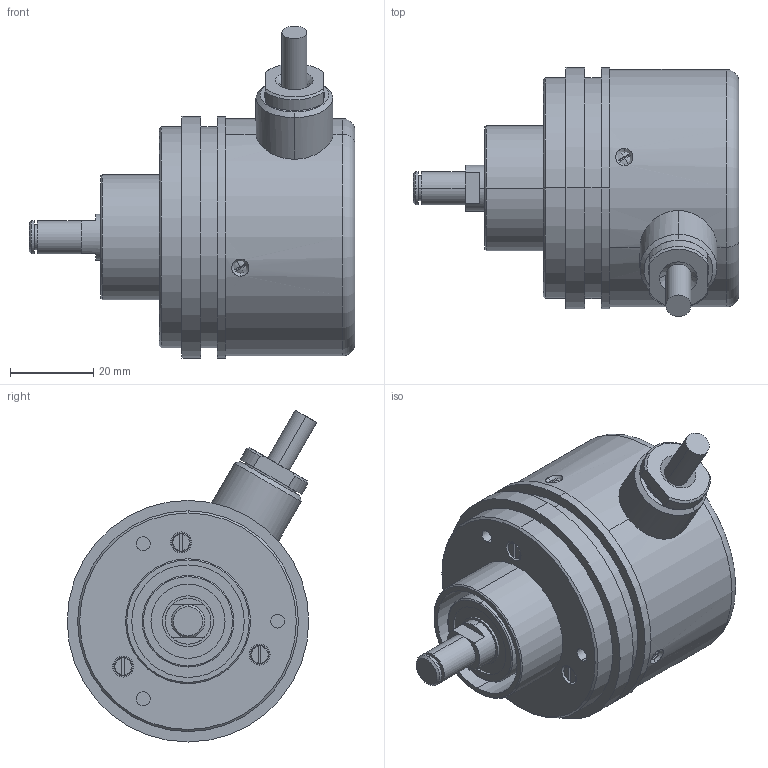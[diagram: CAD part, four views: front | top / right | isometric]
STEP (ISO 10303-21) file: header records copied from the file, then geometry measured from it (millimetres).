
FILE_DESCRIPTION (( 'STEP AP214' ), '1' );
FILE_NAME ('ËÈÐ-158Ã_èñï 3.STEP', '2017-05-23T08:41:21', ( '' ), ( '' ), 'SwSTEP 2.0', 'SolidWorks 2013', '' );
FILE_SCHEMA (( 'AUTOMOTIVE_DESIGN' ));
Length unit declared in the file: millimetre
Products named in the file (1): ËÈÐ-158Ã_èñï 3
Bounding box: 78.19 x 59.92 x 79.71 mm (x, y, z)
Surface area: 21248.1 mm2 (no closed solid volume)
Topology: 0 solids, 16 shells, 148 faces, 432 edges, 301 vertices
Faces by surface type: cylinder 54, plane 48, cone 18, sphere 12, torus 10, bspline 6
Entity records: 9609 total; most frequent: CARTESIAN_POINT 4113, DIRECTION 839, ORIENTED_EDGE 704, EDGE_CURVE 432, AXIS2_PLACEMENT_3D 359, VERTEX_POINT 301, CIRCLE 216, EDGE_LOOP 171
